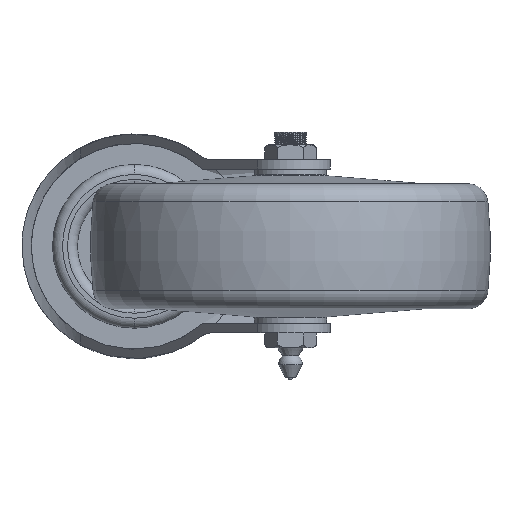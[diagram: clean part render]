
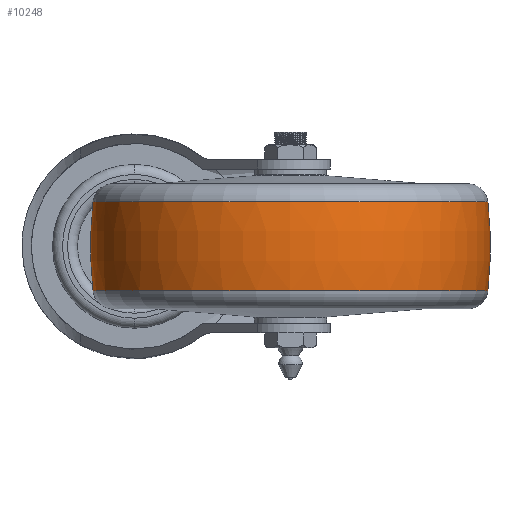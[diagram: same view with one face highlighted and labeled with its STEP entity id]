
A CAD part, front view. The second image highlights one B-rep face of the part: STEP entity #10248.
In plain terms, the highlighted toroidal (fillet/blend) face has major radius 55.569 mm and minor radius 106.369 mm.
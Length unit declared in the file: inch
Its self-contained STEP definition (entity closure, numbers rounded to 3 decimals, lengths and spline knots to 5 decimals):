
#2093 = TOROIDAL_SURFACE ( 'NONE', #12110, -2.18776, 4.18776 ) ;
#2220 = AXIS2_PLACEMENT_3D ( 'NONE', #7857, #2623, #15320 ) ;
#2623 = DIRECTION ( 'NONE',  ( 0., 0., -1. ) ) ;
#3140 = DIRECTION ( 'NONE',  ( 0., -1., 0. ) ) ;
#3191 = CIRCLE ( 'NONE', #14846, 1.97615 ) ;
#3803 = CARTESIAN_POINT ( 'NONE',  ( 3.53865, -4.88, 0.44632 ) ) ;
#4451 = DIRECTION ( 'NONE',  ( 0., 0., -1. ) ) ;
#4585 = CIRCLE ( 'NONE', #2220, 1.97615 ) ;
#5095 = ORIENTED_EDGE ( 'NONE', *, *, #15069, .T. ) ;
#5304 = DIRECTION ( 'NONE',  ( 0., 1., 0. ) ) ;
#5795 = CARTESIAN_POINT ( 'NONE',  ( -0.41365, -4.88, -0.44632 ) ) ;
#5958 = ORIENTED_EDGE ( 'NONE', *, *, #11954, .T. ) ;
#6308 = DIRECTION ( 'NONE',  ( 0., 0., 1. ) ) ;
#7067 = VERTEX_POINT ( 'NONE', #11846 ) ;
#7207 = CARTESIAN_POINT ( 'NONE',  ( -0.41365, -4.88, 0.44632 ) ) ;
#7564 = DIRECTION ( 'NONE',  ( 1., 0., 0. ) ) ;
#7857 = CARTESIAN_POINT ( 'NONE',  ( 1.5625, -4.88, 0.44632 ) ) ;
#7953 = VERTEX_POINT ( 'NONE', #7207 ) ;
#8511 = CIRCLE ( 'NONE', #9115, 4.18776 ) ;
#9115 = AXIS2_PLACEMENT_3D ( 'NONE', #10664, #3140, #4451 ) ;
#9353 = DIRECTION ( 'NONE',  ( 1., 0., 0. ) ) ;
#10090 = ORIENTED_EDGE ( 'NONE', *, *, #12178, .F. ) ;
#10183 = CARTESIAN_POINT ( 'NONE',  ( 3.75026, -4.88, 0. ) ) ;
#10248 = ADVANCED_FACE ( 'NONE', ( #13404 ), #2093, .T. ) ;
#10664 = CARTESIAN_POINT ( 'NONE',  ( -0.62526, -4.88, 0. ) ) ;
#10744 = DIRECTION ( 'NONE',  ( 0., 0., 1. ) ) ;
#11846 = CARTESIAN_POINT ( 'NONE',  ( 3.53865, -4.88, -0.44632 ) ) ;
#11881 = CARTESIAN_POINT ( 'NONE',  ( 1.5625, -4.88, -0.44632 ) ) ;
#11954 = EDGE_CURVE ( 'NONE', #12364, #7067, #3191, .T. ) ;
#12110 = AXIS2_PLACEMENT_3D ( 'NONE', #13865, #6308, #7564 ) ;
#12178 = EDGE_CURVE ( 'NONE', #12364, #7953, #12689, .T. ) ;
#12364 = VERTEX_POINT ( 'NONE', #5795 ) ;
#12689 = CIRCLE ( 'NONE', #15145, 4.18776 ) ;
#13404 = FACE_OUTER_BOUND ( 'NONE', #13766, .T. ) ;
#13766 = EDGE_LOOP ( 'NONE', ( #10090, #5958, #14728, #5095 ) ) ;
#13865 = CARTESIAN_POINT ( 'NONE',  ( 1.5625, -4.88, 0. ) ) ;
#14094 = DIRECTION ( 'NONE',  ( -1., 0., 0. ) ) ;
#14728 = ORIENTED_EDGE ( 'NONE', *, *, #16200, .T. ) ;
#14846 = AXIS2_PLACEMENT_3D ( 'NONE', #11881, #10744, #9353 ) ;
#15069 = EDGE_CURVE ( 'NONE', #15398, #7953, #4585, .T. ) ;
#15145 = AXIS2_PLACEMENT_3D ( 'NONE', #10183, #5304, #14094 ) ;
#15320 = DIRECTION ( 'NONE',  ( -1., 0., 0. ) ) ;
#15398 = VERTEX_POINT ( 'NONE', #3803 ) ;
#16200 = EDGE_CURVE ( 'NONE', #7067, #15398, #8511, .T. ) ;
